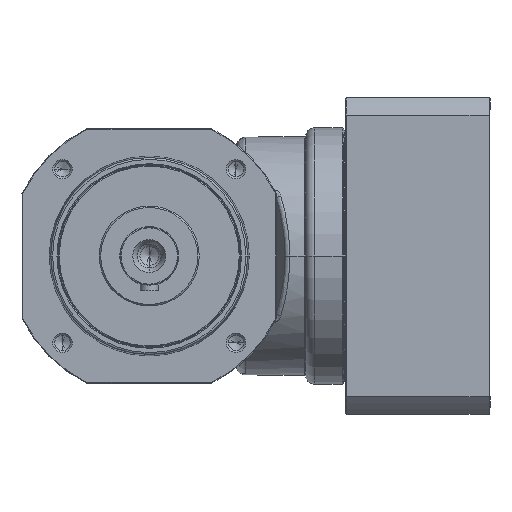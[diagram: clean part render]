
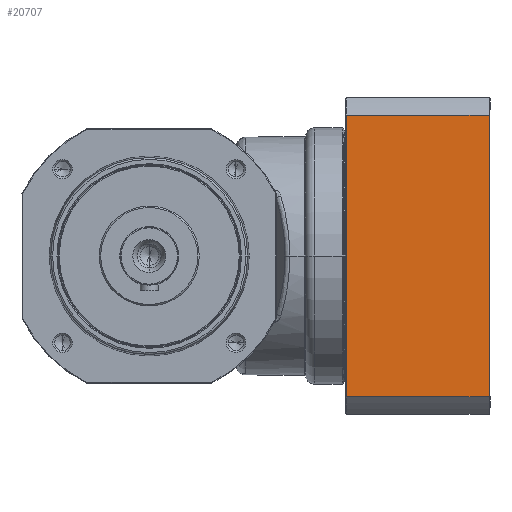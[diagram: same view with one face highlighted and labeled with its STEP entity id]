
A CAD part, left-side view. The second image highlights one B-rep face of the part: STEP entity #20707.
In plain terms, the highlighted planar face has unit normal (-1, 0, 0) as drawn and (0, -1, 0) by its records, which use the part's own axes.
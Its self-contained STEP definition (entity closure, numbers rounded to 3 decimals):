
#19563=DIRECTION('',(1.,0.,0.));
#19564=VECTOR('',#19563,154.961);
#19565=CARTESIAN_POINT('',(-77.481,-87.,
3.));
#19566=LINE('',#19565,#19564);
#19567=DIRECTION('',(0.,0.,1.));
#19568=VECTOR('',#19567,78.5);
#19569=CARTESIAN_POINT('',(-77.481,-87.,
3.));
#19570=LINE('',#19569,#19568);
#19571=DIRECTION('',(1.,0.,0.));
#19572=VECTOR('',#19571,154.961);
#19573=CARTESIAN_POINT('',(-77.481,-87.,
81.5));
#19574=LINE('',#19573,#19572);
#19575=DIRECTION('',(0.,0.,1.));
#19576=VECTOR('',#19575,78.5);
#19577=CARTESIAN_POINT('',(77.481,-87.,
3.));
#19578=LINE('',#19577,#19576);
#20272=CARTESIAN_POINT('',(-77.481,-87.,
81.5));
#20273=CARTESIAN_POINT('',(77.481,-87.,
81.5));
#20274=VERTEX_POINT('',#20272);
#20275=VERTEX_POINT('',#20273);
#20309=CARTESIAN_POINT('',(-77.481,-87.,3.));
#20311=VERTEX_POINT('',#20309);
#20314=CARTESIAN_POINT('',(77.481,-87.,
3.));
#20315=VERTEX_POINT('',#20314);
#20693=CARTESIAN_POINT('',(-87.,-87.,0.));
#20694=DIRECTION('',(0.,-1.,0.));
#20695=DIRECTION('',(1.,0.,0.));
#20696=AXIS2_PLACEMENT_3D('',#20693,#20694,#20695);
#20697=PLANE('',#20696);
#20698=ORIENTED_EDGE('',*,*,#20687,.F.);
#20700=ORIENTED_EDGE('',*,*,#20699,.T.);
#20702=ORIENTED_EDGE('',*,*,#20701,.T.);
#20704=ORIENTED_EDGE('',*,*,#20703,.F.);
#20705=EDGE_LOOP('',(#20698,#20700,#20702,#20704));
#20706=FACE_OUTER_BOUND('',#20705,.F.);
#20707=ADVANCED_FACE('',(#20706),#20697,.T.);
#20687=EDGE_CURVE('',#20311,#20315,#19566,.T.);
#20699=EDGE_CURVE('',#20311,#20274,#19570,.T.);
#20701=EDGE_CURVE('',#20274,#20275,#19574,.T.);
#20703=EDGE_CURVE('',#20315,#20275,#19578,.T.);
